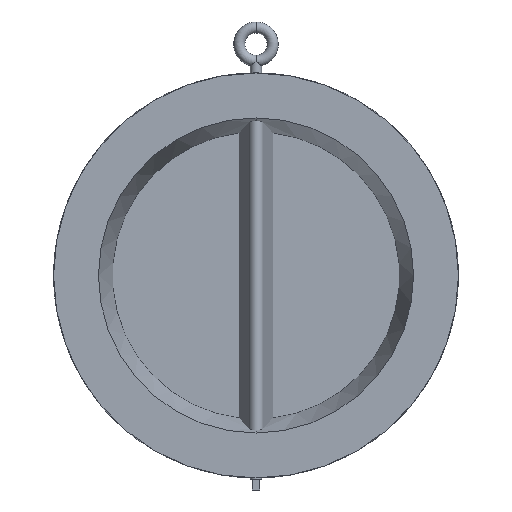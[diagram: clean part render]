
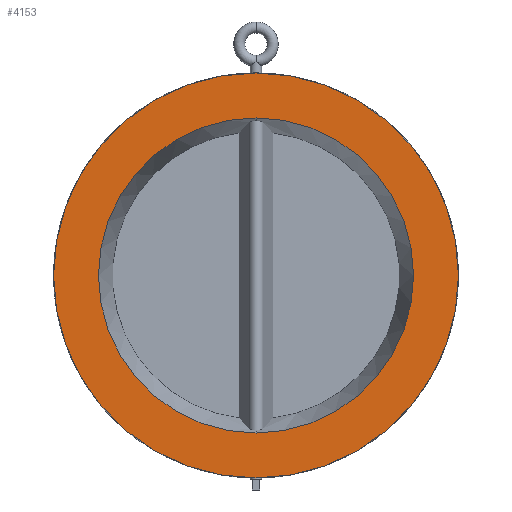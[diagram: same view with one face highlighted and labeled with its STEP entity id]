
A CAD part, front view. The second image highlights one B-rep face of the part: STEP entity #4153.
In plain terms, the highlighted planar face has unit normal (0, -1, 0).
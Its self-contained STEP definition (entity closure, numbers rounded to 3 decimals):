
#54 = CARTESIAN_POINT ( 'NONE',  ( 0., 0., -218.5 ) ) ;
#59 = DIRECTION ( 'NONE',  ( 0., 0., -1. ) ) ;
#60 = DIRECTION ( 'NONE',  ( 0., -1., 0. ) ) ;
#61 = CARTESIAN_POINT ( 'NONE',  ( 0., 0., 0. ) ) ;
#62 = CIRCLE ( 'NONE', #67, 218.5 ) ;
#67 = AXIS2_PLACEMENT_3D ( 'NONE', #61, #60, #59 ) ;
#151 = DIRECTION ( 'NONE',  ( 0., -1., 0. ) ) ;
#211 = CARTESIAN_POINT ( 'NONE',  ( 0., 0., 0. ) ) ;
#433 = AXIS2_PLACEMENT_3D ( 'NONE', #211, #151, #4774 ) ;
#451 = CIRCLE ( 'NONE', #433, 170. ) ;
#496 = DIRECTION ( 'NONE',  ( 0., 0., 1. ) ) ;
#497 = DIRECTION ( 'NONE',  ( 0., 1., 0. ) ) ;
#498 = CARTESIAN_POINT ( 'NONE',  ( -170., 0., 0. ) ) ;
#499 = AXIS2_PLACEMENT_3D ( 'NONE', #498, #497, #496 ) ;
#507 = FACE_BOUND ( 'NONE', #4150, .T. ) ;
#508 = PLANE ( 'NONE',  #499 ) ;
#510 = FACE_OUTER_BOUND ( 'NONE', #4122, .T. ) ;
#1631 = AXIS2_PLACEMENT_3D ( 'NONE', #1657, #1691, #1690 ) ;
#1657 = CARTESIAN_POINT ( 'NONE',  ( 0., 0., 0. ) ) ;
#1659 = CIRCLE ( 'NONE', #1631, 170. ) ;
#1683 = CARTESIAN_POINT ( 'NONE',  ( 0., 0., -170. ) ) ;
#1689 = CARTESIAN_POINT ( 'NONE',  ( 0., 0., 170. ) ) ;
#1690 = DIRECTION ( 'NONE',  ( 0., 0., -1. ) ) ;
#1691 = DIRECTION ( 'NONE',  ( 0., -1., 0. ) ) ;
#3847 = EDGE_CURVE ( 'NONE', #3921, #3862, #5695, .T. ) ;
#3862 = VERTEX_POINT ( 'NONE', #5722 ) ;
#3882 = EDGE_CURVE ( 'NONE', #3862, #3921, #62, .T. ) ;
#3921 = VERTEX_POINT ( 'NONE', #54 ) ;
#4116 = EDGE_CURVE ( 'NONE', #4895, #4888, #451, .T. ) ;
#4122 = EDGE_LOOP ( 'NONE', ( #4148, #4149 ) ) ;
#4144 = ORIENTED_EDGE ( 'NONE', *, *, #4116, .F. ) ;
#4147 = ORIENTED_EDGE ( 'NONE', *, *, #4885, .F. ) ;
#4148 = ORIENTED_EDGE ( 'NONE', *, *, #3847, .T. ) ;
#4149 = ORIENTED_EDGE ( 'NONE', *, *, #3882, .T. ) ;
#4150 = EDGE_LOOP ( 'NONE', ( #4144, #4147 ) ) ;
#4153 = ADVANCED_FACE ( 'NONE', ( #510, #507 ), #508, .F. ) ;
#4774 = DIRECTION ( 'NONE',  ( 0., 0., -1. ) ) ;
#4885 = EDGE_CURVE ( 'NONE', #4888, #4895, #1659, .T. ) ;
#4888 = VERTEX_POINT ( 'NONE', #1689 ) ;
#4895 = VERTEX_POINT ( 'NONE', #1683 ) ;
#5646 = AXIS2_PLACEMENT_3D ( 'NONE', #5694, #5693, #5692 ) ;
#5692 = DIRECTION ( 'NONE',  ( 0., 0., -1. ) ) ;
#5693 = DIRECTION ( 'NONE',  ( 0., -1., 0. ) ) ;
#5694 = CARTESIAN_POINT ( 'NONE',  ( 0., 0., 0. ) ) ;
#5695 = CIRCLE ( 'NONE', #5646, 218.5 ) ;
#5722 = CARTESIAN_POINT ( 'NONE',  ( 0., 0., 218.5 ) ) ;
